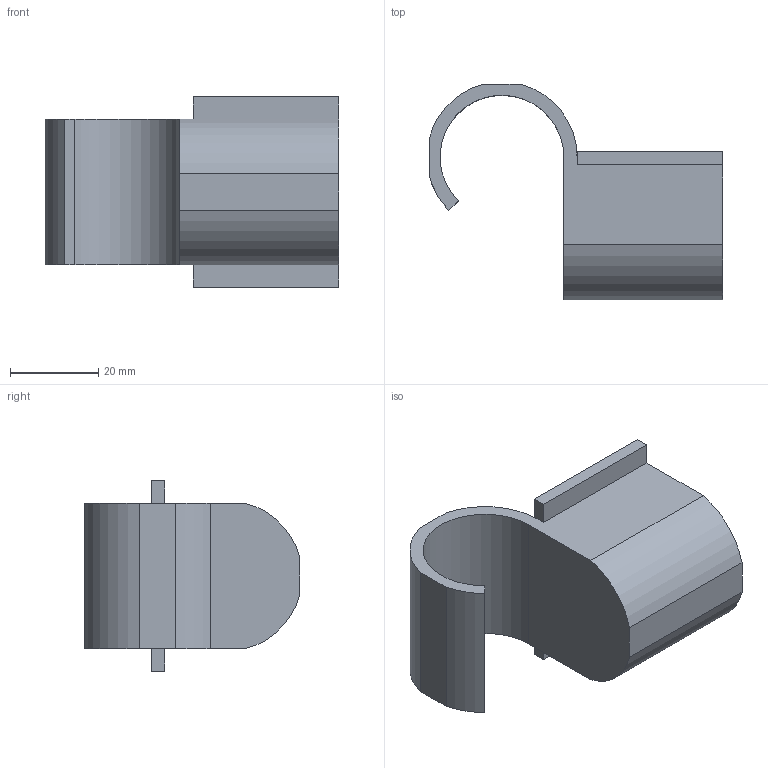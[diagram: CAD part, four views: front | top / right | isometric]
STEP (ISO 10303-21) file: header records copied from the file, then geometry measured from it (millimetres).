
FILE_DESCRIPTION (( 'STEP AP214' ), '1' );
FILE_NAME ('PJ-701.STEP', '2023-09-12T11:23:17', ( 'catia' ), ( 'HP Inc.' ), 'SwSTEP 2.0', 'SolidWorks 2021', '' );
FILE_SCHEMA (( 'AUTOMOTIVE_DESIGN' ));
Length unit declared in the file: millimetre
Products named in the file (1): PJ-701
Bounding box: 66.5 x 48.75 x 43 mm (x, y, z)
Volume: 24580.7 mm3; surface area: 14044.3 mm2
Topology: 1 solids, 1 shells, 25 faces, 65 edges, 43 vertices
Faces by surface type: plane 16, cylinder 9
Entity records: 814 total; most frequent: CARTESIAN_POINT 147, DIRECTION 134, ORIENTED_EDGE 130, EDGE_CURVE 65, VECTOR 46, LINE 46, AXIS2_PLACEMENT_3D 44, VERTEX_POINT 43
